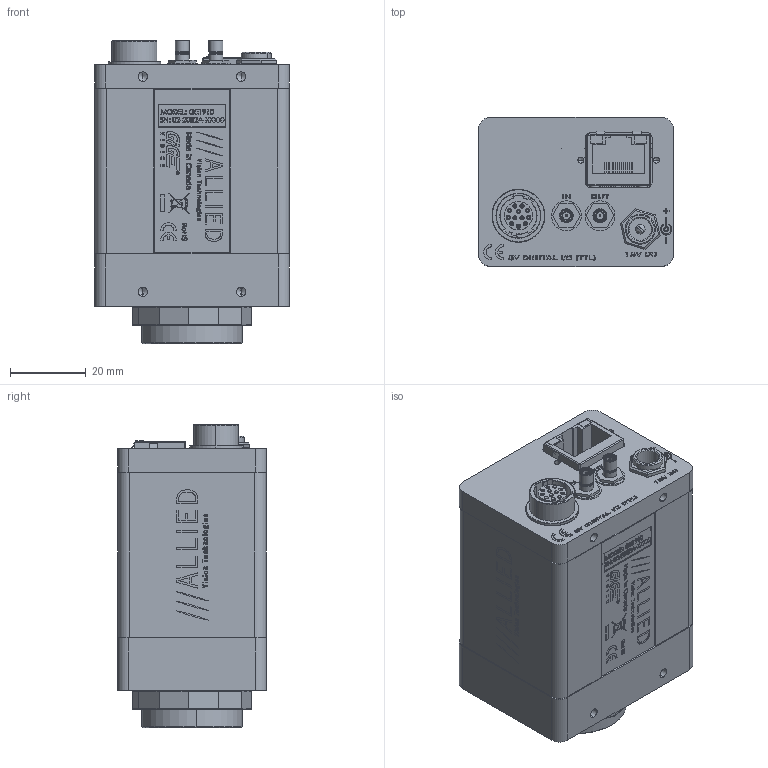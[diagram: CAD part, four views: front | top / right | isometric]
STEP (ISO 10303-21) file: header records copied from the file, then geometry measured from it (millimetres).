
FILE_DESCRIPTION (( 'STEP AP214' ), '1' );
FILE_NAME ('GE1910.STEP', '2013-07-31T21:44:04', ( '' ), ( '' ), 'SwSTEP 2.0', 'SolidWorks 2013', '' );
FILE_SCHEMA (( 'AUTOMOTIVE_DESIGN' ));
Length unit declared in the file: millimetre
Products named in the file (34): 140015-screw pan head phillips 4-40 x 0.1875; 100137A - GE CAMERA BACK ASSEMBLY - for GE KODAK 1M2M; 100051B - GE BACKPLATE ASSY; 110036B GE COVER EXTRUDED SHORT WITH LOGO_Finished; 260010-HIROSE HR10A-10R-12SB; 740031B-GE SERIES LABEL; 260014-SWITCHCRAFT PC712A; 140007-screw socket head cap #4-40x2; 110033B-C GE BACK PLATE; 740087A-GE1910M LABEL PRINT; 260010-HIROSE HR10A-10R-12SB WASHER; 140008-washer spring lock #4; 140034-SWITCHCRAFT P10149 WITH WIRE; 140034-SWITCHCRAFT P10149; GE1910; 270006-JUMPER WIRE 18MM LONG; 260009-AMPHENOL 903-406J-51R; 260010-HIROSE HR10A-10R-12SB NUT; 100156A-GE1910M FRONT ASSY; 140000-AMPHENOL 903-10408-1; 220141-KODAK KAI-02150-ABA; 140002-KEYSTONE 349; KODAK KAI-02150 WINDOW; 100000AA-CV SMB GROUNDING ASSEMBLY; KODAK KAI-02150 BODY; 140001-AMPHENOL 903-10409-1; 110031A-B EC-CCD LOCKING RING; 270006-JUMPER WIRE MODIFIED; 110003AC-CV CMOUNT RING; 260014-SWITCHCRAFT PC712A NUT; 110085A-GE1050 FRONT PLATE; 200031B-A GE INTERFACE PCB ASSY; 110053AA-GE KODAK 2M CCD DUST SHIELD GASKET; 260029 BELFUSE 0826-1C1T-23
Assembly tree (47 placements, depth 5):
  GE1910
    140008-washer spring lock #4  x4
    740087A-GE1910M LABEL PRINT
    140007-screw socket head cap #4-40x2  x4
    740031B-GE SERIES LABEL
    110036B GE COVER EXTRUDED SHORT WITH LOGO_Finished
    100137A - GE CAMERA BACK ASSEMBLY - for GE KODAK 1M2M
      140015-screw pan head phillips 4-40 x 0.1875
      140008-washer spring lock #4  x2
      200031B-A GE INTERFACE PCB ASSY
        260029 BELFUSE 0826-1C1T-23
      100051B - GE BACKPLATE ASSY
        260014-SWITCHCRAFT PC712A NUT
        100000AA-CV SMB GROUNDING ASSEMBLY  x2
          270006-JUMPER WIRE MODIFIED
          140001-AMPHENOL 903-10409-1
        140002-KEYSTONE 349  x4
        140000-AMPHENOL 903-10408-1  x2
        260010-HIROSE HR10A-10R-12SB NUT
        260009-AMPHENOL 903-406J-51R  x2
        140034-SWITCHCRAFT P10149 WITH WIRE
          270006-JUMPER WIRE 18MM LONG
          140034-SWITCHCRAFT P10149
        260010-HIROSE HR10A-10R-12SB WASHER
        110033B-C GE BACK PLATE
        260014-SWITCHCRAFT PC712A
        260010-HIROSE HR10A-10R-12SB
    100156A-GE1910M FRONT ASSY
      110053AA-GE KODAK 2M CCD DUST SHIELD GASKET
      110085A-GE1050 FRONT PLATE
      110003AC-CV CMOUNT RING
      110031A-B EC-CCD LOCKING RING
      220141-KODAK KAI-02150-ABA
        KODAK KAI-02150 BODY
        KODAK KAI-02150 WINDOW
Bounding box: 51.56 x 39.37 x 80.29 mm (x, y, z)
Volume: 48693.2 mm3; surface area: 67975.2 mm2
Topology: 72 solids, 72 shells, 3921 faces, 9832 edges, 6413 vertices
Faces by surface type: plane 2057, bspline 893, cylinder 725, cone 246
Entity records: 184105 total; most frequent: CARTESIAN_POINT 57803, ORIENTED_EDGE 18518, DIRECTION 14825, EDGE_CURVE 9259, VERTEX_POINT 6071, VECTOR 6005, LINE 6005, AXIS2_PLACEMENT_3D 4410
